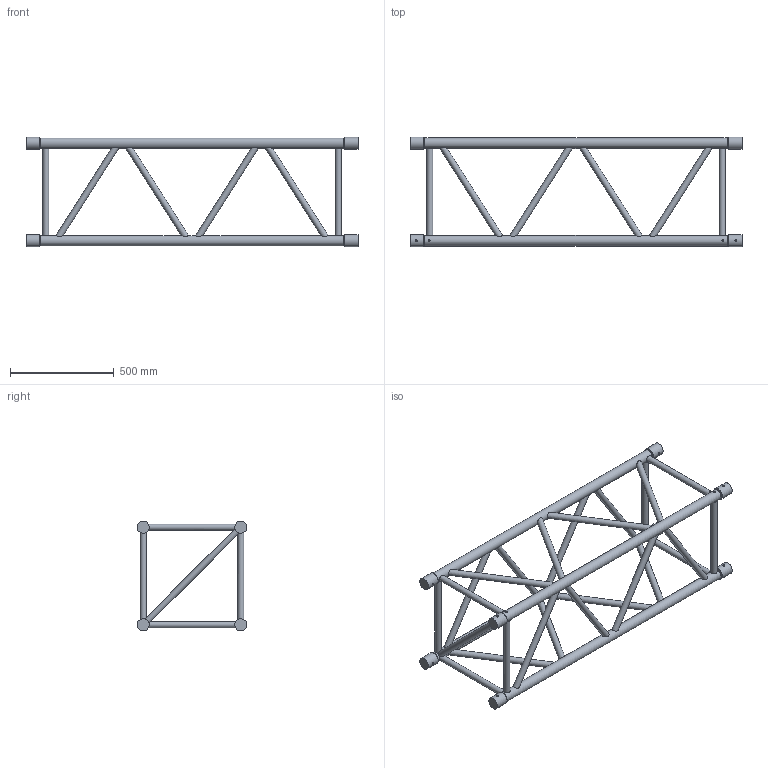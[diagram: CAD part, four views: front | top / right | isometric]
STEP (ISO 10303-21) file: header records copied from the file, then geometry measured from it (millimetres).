
FILE_DESCRIPTION(/* description */ (''),/* implementation_level */ '2;1');
FILE_NAME(/* name */ 'M:\Symbolen_NIEUW\STP\52-er truss\111110109.stp',/* time_stamp */ '2015-04-22T15:38:25+02:00',/* author */ ('Stephan'),/* organization */ (''),/* preprocessor_version */ 'ST-DEVELOPER v15.6',/* originating_system */ 'Autodesk Inventor 2015',/* authorisation */ '');
FILE_SCHEMA (('AUTOMOTIVE_DESIGN { 1 0 10303 214 3 1 1 }'));
Length unit declared in the file: millimetre
Products named in the file (1): 160023968
Bounding box: 1600 x 528.8 x 528.8 mm (x, y, z)
Volume: 21823097.9 mm3; surface area: 2261331.2 mm2
Topology: 2 solids, 6 shells, 306 faces, 684 edges, 406 vertices
Faces by surface type: plane 168, cylinder 98, cone 40
Full cylindrical faces by diameter (mm): 10 x8, 30 x26, 50 x4, 58.8 x8
Entity records: 10979 total; most frequent: CARTESIAN_POINT 4209, DIRECTION 1362, ORIENTED_EDGE 1232, AXIS2_PLACEMENT_3D 615, EDGE_CURVE 588, EDGE_LOOP 432, VERTEX_POINT 384, STYLED_ITEM 287
